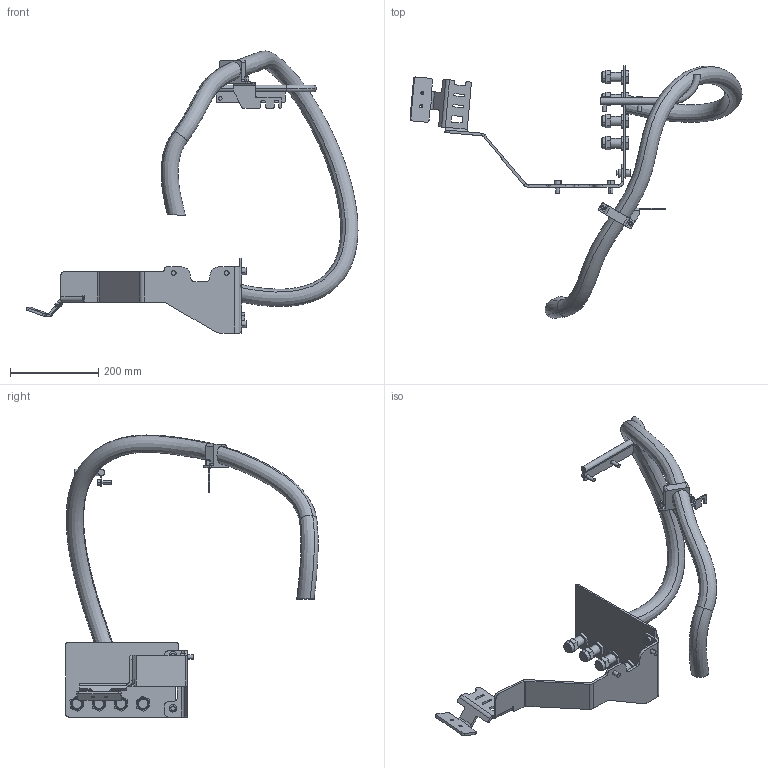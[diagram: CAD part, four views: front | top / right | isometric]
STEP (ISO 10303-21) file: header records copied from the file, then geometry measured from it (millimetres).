
FILE_DESCRIPTION (( 'STEP AP214' ), '1' );
FILE_NAME ('IRB6720-MH3_160kg-320_OC_00_LINK03a_CABLE.step', '2026-06-10T11:41:34', ( '' ), ( '' ), 'SwSTEP 2.0', 'SolidWorks 2024', '' );
FILE_SCHEMA (( 'AUTOMOTIVE_DESIGN' ));
Length unit declared in the file: millimetre
Products named in the file (1): IRB6720-MH3_160kg-320_OC_00_LINK03a_CABLE
Bounding box: 752.88 x 572.21 x 639.56 mm (x, y, z)
Volume: 2634795.7 mm3; surface area: 471948 mm2
Topology: 1 solids, 5 shells, 497 faces, 1203 edges, 767 vertices
Faces by surface type: plane 291, cylinder 170, cone 20, torus 10, bspline 6
Entity records: 91423 total; most frequent: CARTESIAN_POINT 79459, DIRECTION 2574, ORIENTED_EDGE 2406, EDGE_CURVE 1203, AXIS2_PLACEMENT_3D 908, VERTEX_POINT 767, VECTOR 758, LINE 758
